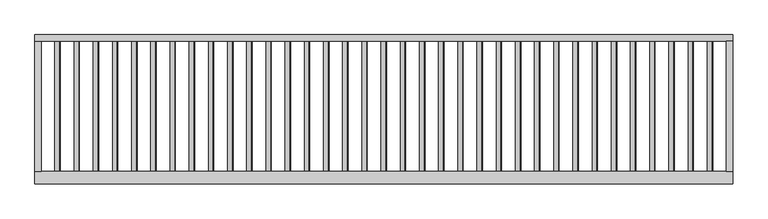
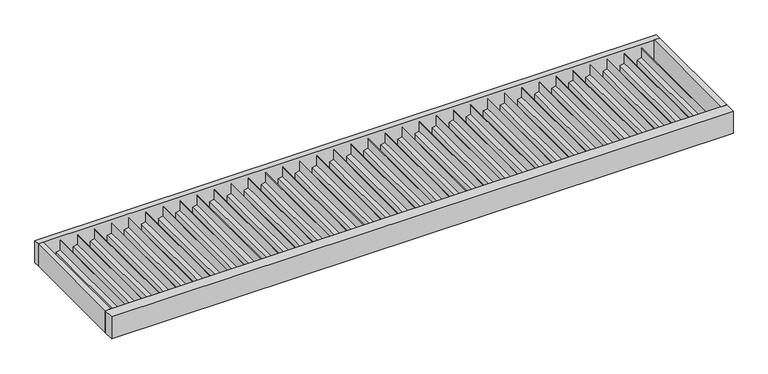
"""IFC4 building model written with IfcOpenShell, lengths in millimetres: proxy geometry, Renson_Amani_Canopy : Renson_Amani_Canopy."""

from ifc_helpers import new_model, si_unit, frame, origin, place, context, project, spatial, polyline, outline, extrude, source, transform, mapped, element, save


def generic_models_a6b09960(model_context):
    return source(origin(), model_context, "Body", "SweptSolid", [
        extrude(outline(polyline([(-99.0, 3855.0), (-150.0, 3855.0), (-150.0, 3885.0), (-27.0, 3885.0), (-27.0, 3883.0), (-92.0, 3883.0), (-99.0, 3855.0)])), frame((0.0, 70.0, 0.0), z_axis=(0.0, 1.0, 0.0), x_axis=(0.0, 0.0, 1.0)), (0.0, 0.0, 1.0), 750.0),
        extrude(outline(polyline([(-99.0, 3745.0), (-150.0, 3745.0), (-150.0, 3775.0), (-27.0, 3775.0), (-27.0, 3773.0), (-92.0, 3773.0), (-99.0, 3745.0)])), frame((0.0, 70.0, 0.0), z_axis=(0.0, 1.0, 0.0), x_axis=(0.0, 0.0, 1.0)), (0.0, 0.0, 1.0), 750.0),
        extrude(outline(polyline([(-99.0, 3635.0), (-150.0, 3635.0), (-150.0, 3665.0), (-27.0, 3665.0), (-27.0, 3663.0), (-92.0, 3663.0), (-99.0, 3635.0)])), frame((0.0, 70.0, 0.0), z_axis=(0.0, 1.0, 0.0), x_axis=(0.0, 0.0, 1.0)), (0.0, 0.0, 1.0), 750.0),
        extrude(outline(polyline([(-99.0, 3525.0), (-150.0, 3525.0), (-150.0, 3555.0), (-27.0, 3555.0), (-27.0, 3553.0), (-92.0, 3553.0), (-99.0, 3525.0)])), frame((0.0, 70.0, 0.0), z_axis=(0.0, 1.0, 0.0), x_axis=(0.0, 0.0, 1.0)), (0.0, 0.0, 1.0), 750.0),
        extrude(outline(polyline([(-99.0, 3415.0), (-150.0, 3415.0), (-150.0, 3445.0), (-27.0, 3445.0), (-27.0, 3443.0), (-92.0, 3443.0), (-99.0, 3415.0)])), frame((0.0, 70.0, 0.0), z_axis=(0.0, 1.0, 0.0), x_axis=(0.0, 0.0, 1.0)), (0.0, 0.0, 1.0), 750.0),
        extrude(outline(polyline([(-99.0, 3305.0), (-150.0, 3305.0), (-150.0, 3335.0), (-27.0, 3335.0), (-27.0, 3333.0), (-92.0, 3333.0), (-99.0, 3305.0)])), frame((0.0, 70.0, 0.0), z_axis=(0.0, 1.0, 0.0), x_axis=(0.0, 0.0, 1.0)), (0.0, 0.0, 1.0), 750.0),
        extrude(outline(polyline([(-99.0, 3195.0), (-150.0, 3195.0), (-150.0, 3225.0), (-27.0, 3225.0), (-27.0, 3223.0), (-92.0, 3223.0), (-99.0, 3195.0)])), frame((0.0, 70.0, 0.0), z_axis=(0.0, 1.0, 0.0), x_axis=(0.0, 0.0, 1.0)), (0.0, 0.0, 1.0), 750.0),
        extrude(outline(polyline([(-99.0, 3085.0), (-150.0, 3085.0), (-150.0, 3115.0), (-27.0, 3115.0), (-27.0, 3113.0), (-92.0, 3113.0), (-99.0, 3085.0)])), frame((0.0, 70.0, 0.0), z_axis=(0.0, 1.0, 0.0), x_axis=(0.0, 0.0, 1.0)), (0.0, 0.0, 1.0), 750.0),
        extrude(outline(polyline([(-99.0, 2975.0), (-150.0, 2975.0), (-150.0, 3005.0), (-27.0, 3005.0), (-27.0, 3003.0), (-92.0, 3003.0), (-99.0, 2975.0)])), frame((0.0, 70.0, 0.0), z_axis=(0.0, 1.0, 0.0), x_axis=(0.0, 0.0, 1.0)), (0.0, 0.0, 1.0), 750.0),
        extrude(outline(polyline([(-99.0, 2865.0), (-150.0, 2865.0), (-150.0, 2895.0), (-27.0, 2895.0), (-27.0, 2893.0), (-92.0, 2893.0), (-99.0, 2865.0)])), frame((0.0, 70.0, 0.0), z_axis=(0.0, 1.0, 0.0), x_axis=(0.0, 0.0, 1.0)), (0.0, 0.0, 1.0), 750.0),
        extrude(outline(polyline([(-99.0, 2755.0), (-150.0, 2755.0), (-150.0, 2785.0), (-27.0, 2785.0), (-27.0, 2783.0), (-92.0, 2783.0), (-99.0, 2755.0)])), frame((0.0, 70.0, 0.0), z_axis=(0.0, 1.0, 0.0), x_axis=(0.0, 0.0, 1.0)), (0.0, 0.0, 1.0), 750.0),
        extrude(outline(polyline([(-99.0, 2645.0), (-150.0, 2645.0), (-150.0, 2675.0), (-27.0, 2675.0), (-27.0, 2673.0), (-92.0, 2673.0), (-99.0, 2645.0)])), frame((0.0, 70.0, 0.0), z_axis=(0.0, 1.0, 0.0), x_axis=(0.0, 0.0, 1.0)), (0.0, 0.0, 1.0), 750.0),
        extrude(outline(polyline([(-99.0, 2535.0), (-150.0, 2535.0), (-150.0, 2565.0), (-27.0, 2565.0), (-27.0, 2563.0), (-92.0, 2563.0), (-99.0, 2535.0)])), frame((0.0, 70.0, 0.0), z_axis=(0.0, 1.0, 0.0), x_axis=(0.0, 0.0, 1.0)), (0.0, 0.0, 1.0), 750.0),
        extrude(outline(polyline([(-99.0, 2425.0), (-150.0, 2425.0), (-150.0, 2455.0), (-27.0, 2455.0), (-27.0, 2453.0), (-92.0, 2453.0), (-99.0, 2425.0)])), frame((0.0, 70.0, 0.0), z_axis=(0.0, 1.0, 0.0), x_axis=(0.0, 0.0, 1.0)), (0.0, 0.0, 1.0), 750.0),
        extrude(outline(polyline([(-99.0, 2315.0), (-150.0, 2315.0), (-150.0, 2345.0), (-27.0, 2345.0), (-27.0, 2343.0), (-92.0, 2343.0), (-99.0, 2315.0)])), frame((0.0, 70.0, 0.0), z_axis=(0.0, 1.0, 0.0), x_axis=(0.0, 0.0, 1.0)), (0.0, 0.0, 1.0), 750.0),
        extrude(outline(polyline([(-99.0, 2205.0), (-150.0, 2205.0), (-150.0, 2235.0), (-27.0, 2235.0), (-27.0, 2233.0), (-92.0, 2233.0), (-99.0, 2205.0)])), frame((0.0, 70.0, 0.0), z_axis=(0.0, 1.0, 0.0), x_axis=(0.0, 0.0, 1.0)), (0.0, 0.0, 1.0), 750.0),
        extrude(outline(polyline([(-99.0, 2095.0), (-150.0, 2095.0), (-150.0, 2125.0), (-27.0, 2125.0), (-27.0, 2123.0), (-92.0, 2123.0), (-99.0, 2095.0)])), frame((0.0, 70.0, 0.0), z_axis=(0.0, 1.0, 0.0), x_axis=(0.0, 0.0, 1.0)), (0.0, 0.0, 1.0), 750.0),
        extrude(outline(polyline([(-99.0, 1985.0), (-150.0, 1985.0), (-150.0, 2015.0), (-27.0, 2015.0), (-27.0, 2013.0), (-92.0, 2013.0), (-99.0, 1985.0)])), frame((0.0, 70.0, 0.0), z_axis=(0.0, 1.0, 0.0), x_axis=(0.0, 0.0, 1.0)), (0.0, 0.0, 1.0), 750.0),
        extrude(outline(polyline([(-99.0, 1875.0), (-150.0, 1875.0), (-150.0, 1905.0), (-27.0, 1905.0), (-27.0, 1903.0), (-92.0, 1903.0), (-99.0, 1875.0)])), frame((0.0, 70.0, 0.0), z_axis=(0.0, 1.0, 0.0), x_axis=(0.0, 0.0, 1.0)), (0.0, 0.0, 1.0), 750.0),
        extrude(outline(polyline([(-99.0, 1765.0), (-150.0, 1765.0), (-150.0, 1795.0), (-27.0, 1795.0), (-27.0, 1793.0), (-92.0, 1793.0), (-99.0, 1765.0)])), frame((0.0, 70.0, 0.0), z_axis=(0.0, 1.0, 0.0), x_axis=(0.0, 0.0, 1.0)), (0.0, 0.0, 1.0), 750.0),
        extrude(outline(polyline([(-99.0, 1655.0), (-150.0, 1655.0), (-150.0, 1685.0), (-27.0, 1685.0), (-27.0, 1683.0), (-92.0, 1683.0), (-99.0, 1655.0)])), frame((0.0, 70.0, 0.0), z_axis=(0.0, 1.0, 0.0), x_axis=(0.0, 0.0, 1.0)), (0.0, 0.0, 1.0), 750.0),
        extrude(outline(polyline([(-99.0, 1545.0), (-150.0, 1545.0), (-150.0, 1575.0), (-27.0, 1575.0), (-27.0, 1573.0), (-92.0, 1573.0), (-99.0, 1545.0)])), frame((0.0, 70.0, 0.0), z_axis=(0.0, 1.0, 0.0), x_axis=(0.0, 0.0, 1.0)), (0.0, 0.0, 1.0), 750.0),
        extrude(outline(polyline([(-99.0, 1435.0), (-150.0, 1435.0), (-150.0, 1465.0), (-27.0, 1465.0), (-27.0, 1463.0), (-92.0, 1463.0), (-99.0, 1435.0)])), frame((0.0, 70.0, 0.0), z_axis=(0.0, 1.0, 0.0), x_axis=(0.0, 0.0, 1.0)), (0.0, 0.0, 1.0), 750.0),
        extrude(outline(polyline([(-99.0, 1325.0), (-150.0, 1325.0), (-150.0, 1355.0), (-27.0, 1355.0), (-27.0, 1353.0), (-92.0, 1353.0), (-99.0, 1325.0)])), frame((0.0, 70.0, 0.0), z_axis=(0.0, 1.0, 0.0), x_axis=(0.0, 0.0, 1.0)), (0.0, 0.0, 1.0), 750.0),
        extrude(outline(polyline([(-99.0, 1215.0), (-150.0, 1215.0), (-150.0, 1245.0), (-27.0, 1245.0), (-27.0, 1243.0), (-92.0, 1243.0), (-99.0, 1215.0)])), frame((0.0, 70.0, 0.0), z_axis=(0.0, 1.0, 0.0), x_axis=(0.0, 0.0, 1.0)), (0.0, 0.0, 1.0), 750.0),
        extrude(outline(polyline([(-99.0, 1105.0), (-150.0, 1105.0), (-150.0, 1135.0), (-27.0, 1135.0), (-27.0, 1133.0), (-92.0, 1133.0), (-99.0, 1105.0)])), frame((0.0, 70.0, 0.0), z_axis=(0.0, 1.0, 0.0), x_axis=(0.0, 0.0, 1.0)), (0.0, 0.0, 1.0), 750.0),
        extrude(outline(polyline([(-99.0, 995.0), (-150.0, 995.0), (-150.0, 1025.0), (-27.0, 1025.0), (-27.0, 1023.0), (-92.0, 1023.0), (-99.0, 995.0)])), frame((0.0, 70.0, 0.0), z_axis=(0.0, 1.0, 0.0), x_axis=(0.0, 0.0, 1.0)), (0.0, 0.0, 1.0), 750.0),
        extrude(outline(polyline([(-99.0, 885.0), (-150.0, 885.0), (-150.0, 915.0), (-27.0, 915.0), (-27.0, 913.0), (-92.0, 913.0), (-99.0, 885.0)])), frame((0.0, 70.0, 0.0), z_axis=(0.0, 1.0, 0.0), x_axis=(0.0, 0.0, 1.0)), (0.0, 0.0, 1.0), 750.0),
        extrude(outline(polyline([(-99.0, 775.0), (-150.0, 775.0), (-150.0, 805.0), (-27.0, 805.0), (-27.0, 803.0), (-92.0, 803.0), (-99.0, 775.0)])), frame((0.0, 70.0, 0.0), z_axis=(0.0, 1.0, 0.0), x_axis=(0.0, 0.0, 1.0)), (0.0, 0.0, 1.0), 750.0),
        extrude(outline(polyline([(-99.0, 665.0), (-150.0, 665.0), (-150.0, 695.0), (-27.0, 695.0), (-27.0, 693.0), (-92.0, 693.0), (-99.0, 665.0)])), frame((0.0, 70.0, 0.0), z_axis=(0.0, 1.0, 0.0), x_axis=(0.0, 0.0, 1.0)), (0.0, 0.0, 1.0), 750.0),
        extrude(outline(polyline([(-99.0, 555.0), (-150.0, 555.0), (-150.0, 585.0), (-27.0, 585.0), (-27.0, 583.0), (-92.0, 583.0), (-99.0, 555.0)])), frame((0.0, 70.0, 0.0), z_axis=(0.0, 1.0, 0.0), x_axis=(0.0, 0.0, 1.0)), (0.0, 0.0, 1.0), 750.0),
        extrude(outline(polyline([(-99.0, 445.0), (-150.0, 445.0), (-150.0, 475.0), (-27.0, 475.0), (-27.0, 473.0), (-92.0, 473.0), (-99.0, 445.0)])), frame((0.0, 70.0, 0.0), z_axis=(0.0, 1.0, 0.0), x_axis=(0.0, 0.0, 1.0)), (0.0, 0.0, 1.0), 750.0),
        extrude(outline(polyline([(-99.0, 335.0), (-150.0, 335.0), (-150.0, 365.0), (-27.0, 365.0), (-27.0, 363.0), (-92.0, 363.0), (-99.0, 335.0)])), frame((0.0, 70.0, 0.0), z_axis=(0.0, 1.0, 0.0), x_axis=(0.0, 0.0, 1.0)), (0.0, 0.0, 1.0), 750.0),
        extrude(outline(polyline([(-99.0, 225.0), (-150.0, 225.0), (-150.0, 255.0), (-27.0, 255.0), (-27.0, 253.0), (-92.0, 253.0), (-99.0, 225.0)])), frame((0.0, 70.0, 0.0), z_axis=(0.0, 1.0, 0.0), x_axis=(0.0, 0.0, 1.0)), (0.0, 0.0, 1.0), 750.0),
        extrude(outline(polyline([(-99.0, 115.0), (-150.0, 115.0), (-150.0, 145.0), (-27.0, 145.0), (-27.0, 143.0), (-92.0, 143.0), (-99.0, 115.0)])), frame((0.0, 70.0, 0.0), z_axis=(0.0, 1.0, 0.0), x_axis=(0.0, 0.0, 1.0)), (0.0, 0.0, 1.0), 750.0),
        extrude(outline(polyline([(4000.0, 70.0), (3965.0, 70.0), (3965.0, 820.0), (4000.0, 820.0), (4000.0, 70.0)])), frame((0.0, 0.0, -150.0), z_axis=(0.0, 0.0, 1.0), x_axis=(1.0, 0.0, 0.0)), (0.0, 0.0, 1.0), 150.0),
        extrude(outline(polyline([(4000.0, 855.0), (4000.0, 820.0), (0.0, 820.0), (0.0, 855.0), (4000.0, 855.0)])), frame((0.0, 0.0, -150.0), z_axis=(0.0, 0.0, 1.0), x_axis=(1.0, 0.0, 0.0)), (0.0, 0.0, 1.0), 150.0),
        extrude(outline(polyline([(35.0, 70.0), (0.0, 70.0), (0.0, 820.0), (35.0, 820.0), (35.0, 70.0)])), frame((0.0, 0.0, -150.0), z_axis=(0.0, 0.0, 1.0), x_axis=(1.0, 0.0, 0.0)), (0.0, 0.0, 1.0), 150.0),
        extrude(outline(polyline([(4000.0, 70.0), (4000.0, 0.0), (0.0, 0.0), (0.0, 70.0), (4000.0, 70.0)])), frame((0.0, 0.0, -150.0), z_axis=(0.0, 0.0, 1.0), x_axis=(1.0, 0.0, 0.0)), (0.0, 0.0, 1.0), 150.0),
    ])


if __name__ == "__main__":
    model = new_model("IFC4")
    model_context = context("Model", 3, world=origin())
    ifc_project = project(units=[si_unit("LENGTHUNIT", "METRE", prefix="MILLI")], contexts=[model_context])
    site = spatial("IfcSite", under=ifc_project)
    building = spatial("IfcBuilding", under=site)
    placement = place(None, origin())
    generic_models_shape = generic_models_a6b09960(model_context)
    element("IfcBuildingElementProxy", 1, Name="Renson_Amani_Canopy : Renson_Amani_Canopy", ObjectType="Renson_Amani_Canopy : Renson_Amani_Canopy", at=placement, inside=building, context=model_context, shape_type="MappedRepresentation", body=[
        mapped(generic_models_shape, transform((0.0, 0.0, 0.0), x_axis=(1.0, 0.0, 0.0), y_axis=(0.0, 1.0, 0.0), z_axis=(0.0, 0.0, 1.0))),
    ])
    save(model, "model.ifc")
